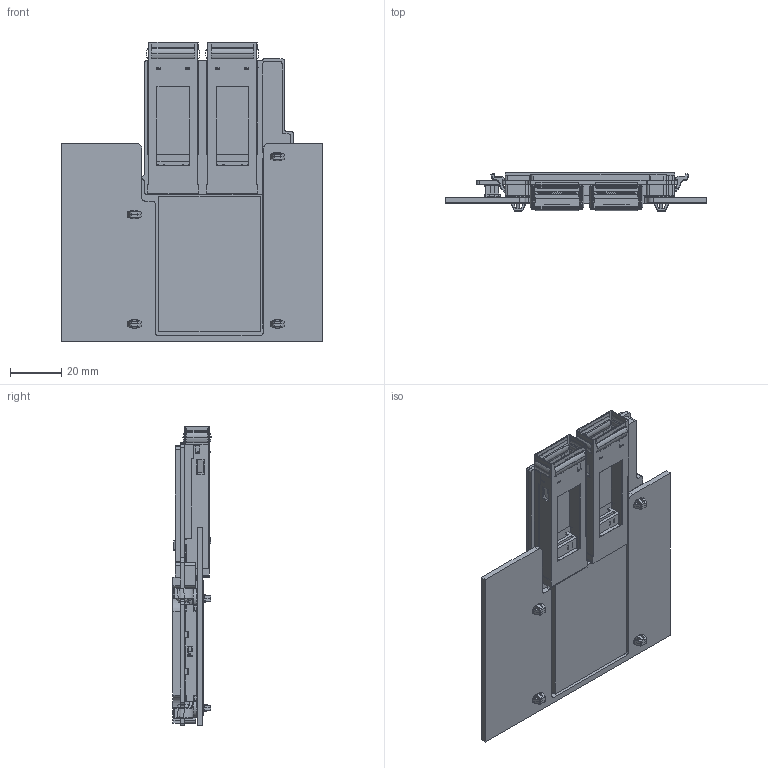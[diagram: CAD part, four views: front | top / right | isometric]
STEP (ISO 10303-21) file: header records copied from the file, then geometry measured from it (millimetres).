
FILE_DESCRIPTION((''),'2;1');
FILE_NAME('OCP-MZ-2_0-BD-ASSY_1X4SFP_8MM_ASM','2015-11-02T',('95030616'),(''),'PRO/ENGINEER BY PARAMETRIC TECHNOLOGY CORPORATION, 2013040','PRO/ENGINEER BY PARAMETRIC TECHNOLOGY CORPORATION, 2013040','');
FILE_SCHEMA(('AUTOMOTIVE_DESIGN { 1 0 10303 214 1 1 1 1 }'));
Products named in the file (21): OCP-2_0-BOARD_2; F01-LED-EVERLIGHT; S61083-121X0XXX; S61083-081X0XXX; BTM-KEEPOUT-2MM; BTM-KEEPOUT-2_9MM; TOP-KEEPOUT-4_5MM; TOP-KEEPOUT-4_5MM-3; TOP-KEEPOUT-4MM; TOP-KEEPOUT-4MM-2; TOP-KEEPOUT-7_5MM; PORTION_MB_LEOPARD_E1_FILLED; FCI_61082_081402LF_LEOPARD_E1; CN120_GPN2_0-8_SMD_H_F-E1; 64POS-REC1; ASSY_PORTION_MB_LEOPARD_E1_ASM__ASM; F06-MEZZ-LATCH-LEFT-5MM; F06-MEZZ-LATCH-RIGHT-5MM; M-U90-A111-1001-REVT1; M-FS1-E38-X0M0-X0-REVT1; OCP-MZ-2_0-BD-ASSY_1X4SFP_8MM_ASM
Assembly tree (27 placements, depth 3):
  OCP-MZ-2_0-BD-ASSY_1X4SFP_8MM_ASM
    OCP-2_0-BOARD_2
    F01-LED-EVERLIGHT  x4
    S61083-121X0XXX
    S61083-081X0XXX
    BTM-KEEPOUT-2MM
    BTM-KEEPOUT-2_9MM
    TOP-KEEPOUT-4_5MM
    TOP-KEEPOUT-4_5MM-3
    TOP-KEEPOUT-4MM
    TOP-KEEPOUT-4MM-2
    TOP-KEEPOUT-7_5MM
    ASSY_PORTION_MB_LEOPARD_E1_ASM__ASM
      PORTION_MB_LEOPARD_E1_FILLED
      FCI_61082_081402LF_LEOPARD_E1
      CN120_GPN2_0-8_SMD_H_F-E1
      64POS-REC1
    F06-MEZZ-LATCH-LEFT-5MM
    F06-MEZZ-LATCH-RIGHT-5MM  x3
    M-U90-A111-1001-REVT1  x2
    M-FS1-E38-X0M0-X0-REVT1  x2
Bounding box: 101.72 x 14.88 x 116.55 mm (x, y, z)
Volume: 75662.3 mm3; surface area: 80000 mm2
Topology: 26 solids, 26 shells, 10585 faces, 29939 edges, 19067 vertices
Faces by surface type: plane 8418, cylinder 1515, bspline 357, cone 132, sphere 127, torus 36
Entity records: 307729 total; most frequent: CARTESIAN_POINT 59573, ORIENTED_EDGE 48108, DIRECTION 41736, EDGE_CURVE 24054, VECTOR 21750, LINE 21750, VERTEX_POINT 15302, AXIS2_PLACEMENT_3D 9993
